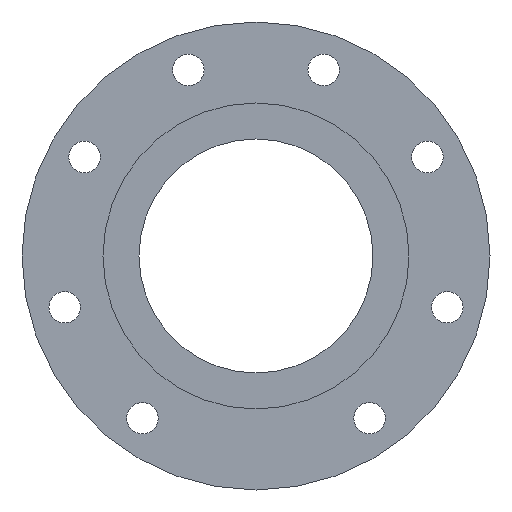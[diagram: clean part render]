
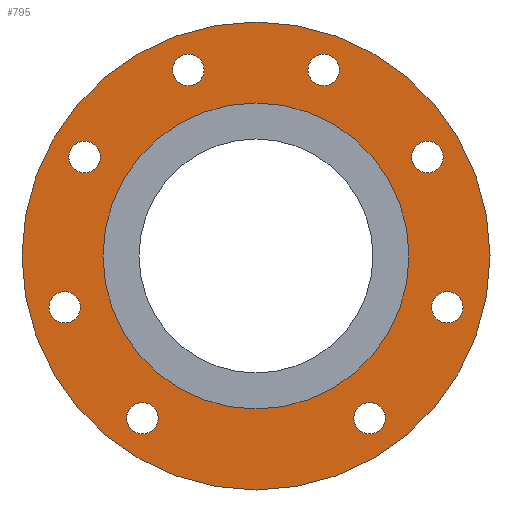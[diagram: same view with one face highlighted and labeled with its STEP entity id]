
A CAD part, left-side view. The second image highlights one B-rep face of the part: STEP entity #795.
In plain terms, the highlighted planar face has unit normal (-1, 0, 0).
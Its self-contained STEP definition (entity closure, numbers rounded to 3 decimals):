
#377=CARTESIAN_POINT('',(-22.0,0.0,-130.0));
#378=VERTEX_POINT('',#377);
#379=CARTESIAN_POINT('',(-22.0,0.0,0.0));
#380=DIRECTION('',(1.0,0.0,0.0));
#381=DIRECTION('',(0.0,0.0,-1.0));
#382=AXIS2_PLACEMENT_3D('',#379,#380,#381);
#383=CIRCLE('',#382,130.0);
#384=EDGE_CURVE('',#378,#378,#383,.T.);
#418=CARTESIAN_POINT('',(-22.0,63.093,-81.357));
#419=VERTEX_POINT('',#418);
#420=CARTESIAN_POINT('',(-22.0,63.093,-90.107));
#421=DIRECTION('',(1.0,0.0,0.0));
#422=DIRECTION('',(0.0,0.0,-1.0));
#423=AXIS2_PLACEMENT_3D('',#420,#421,#422);
#424=CIRCLE('',#423,8.75);
#425=EDGE_CURVE('',#419,#419,#424,.T.);
#459=CARTESIAN_POINT('',(-22.0,106.252,-19.72));
#460=VERTEX_POINT('',#459);
#461=CARTESIAN_POINT('',(-22.0,106.252,-28.47));
#462=DIRECTION('',(1.0,0.0,0.0));
#463=DIRECTION('',(0.0,0.0,-1.0));
#464=AXIS2_PLACEMENT_3D('',#461,#462,#463);
#465=CIRCLE('',#464,8.75);
#466=EDGE_CURVE('',#460,#460,#465,.T.);
#500=CARTESIAN_POINT('',(-22.0,-106.252,-19.72));
#501=VERTEX_POINT('',#500);
#502=CARTESIAN_POINT('',(-22.0,-106.252,-28.47));
#503=DIRECTION('',(1.0,0.0,0.0));
#504=DIRECTION('',(0.0,0.0,-1.0));
#505=AXIS2_PLACEMENT_3D('',#502,#503,#504);
#506=CIRCLE('',#505,8.75);
#507=EDGE_CURVE('',#501,#501,#506,.T.);
#541=CARTESIAN_POINT('',(-22.0,37.622,112.116));
#542=VERTEX_POINT('',#541);
#543=CARTESIAN_POINT('',(-22.0,37.622,103.366));
#544=DIRECTION('',(1.0,0.0,0.0));
#545=DIRECTION('',(0.0,0.0,-1.0));
#546=AXIS2_PLACEMENT_3D('',#543,#544,#545);
#547=CIRCLE('',#546,8.75);
#548=EDGE_CURVE('',#542,#542,#547,.T.);
#582=CARTESIAN_POINT('',(-22.0,-63.093,-81.357));
#583=VERTEX_POINT('',#582);
#584=CARTESIAN_POINT('',(-22.0,-63.093,-90.107));
#585=DIRECTION('',(1.0,0.0,0.0));
#586=DIRECTION('',(0.0,0.0,-1.0));
#587=AXIS2_PLACEMENT_3D('',#584,#585,#586);
#588=CIRCLE('',#587,8.75);
#589=EDGE_CURVE('',#583,#583,#588,.T.);
#623=CARTESIAN_POINT('',(-22.0,95.263,63.75));
#624=VERTEX_POINT('',#623);
#625=CARTESIAN_POINT('',(-22.0,95.263,55.));
#626=DIRECTION('',(1.0,0.0,0.0));
#627=DIRECTION('',(0.0,0.0,-1.0));
#628=AXIS2_PLACEMENT_3D('',#625,#626,#627);
#629=CIRCLE('',#628,8.75);
#630=EDGE_CURVE('',#624,#624,#629,.T.);
#664=CARTESIAN_POINT('',(-22.0,-37.622,112.116));
#665=VERTEX_POINT('',#664);
#666=CARTESIAN_POINT('',(-22.0,-37.622,103.366));
#667=DIRECTION('',(1.0,0.0,0.0));
#668=DIRECTION('',(0.0,0.0,-1.0));
#669=AXIS2_PLACEMENT_3D('',#666,#667,#668);
#670=CIRCLE('',#669,8.75);
#671=EDGE_CURVE('',#665,#665,#670,.T.);
#705=CARTESIAN_POINT('',(-22.0,-95.263,63.75));
#706=VERTEX_POINT('',#705);
#707=CARTESIAN_POINT('',(-22.0,-95.263,55.));
#708=DIRECTION('',(1.0,0.0,0.0));
#709=DIRECTION('',(0.0,0.0,-1.0));
#710=AXIS2_PLACEMENT_3D('',#707,#708,#709);
#711=CIRCLE('',#710,8.75);
#712=EDGE_CURVE('',#706,#706,#711,.T.);
#745=CARTESIAN_POINT('',(-22.,0.0,-85.0));
#746=VERTEX_POINT('',#745);
#747=CARTESIAN_POINT('',(-22.,0.0,0.0));
#748=DIRECTION('',(1.0,0.0,0.0));
#749=DIRECTION('',(0.0,0.0,-1.0));
#750=AXIS2_PLACEMENT_3D('',#747,#748,#749);
#751=CIRCLE('',#750,85.0);
#752=EDGE_CURVE('',#746,#746,#751,.T.);
#760=CARTESIAN_POINT('',(-22.0,0.0,-107.5));
#761=DIRECTION('',(-1.0,0.0,0.0));
#762=DIRECTION('',(0.0,0.0,1.0));
#763=AXIS2_PLACEMENT_3D('',#760,#761,#762);
#764=PLANE('',#763);
#765=ORIENTED_EDGE('',*,*,#384,.F.);
#766=EDGE_LOOP('',(#765));
#767=FACE_OUTER_BOUND('',#766,.T.);
#768=ORIENTED_EDGE('',*,*,#425,.T.);
#769=EDGE_LOOP('',(#768));
#770=FACE_BOUND('',#769,.T.);
#771=ORIENTED_EDGE('',*,*,#466,.T.);
#772=EDGE_LOOP('',(#771));
#773=FACE_BOUND('',#772,.T.);
#774=ORIENTED_EDGE('',*,*,#507,.T.);
#775=EDGE_LOOP('',(#774));
#776=FACE_BOUND('',#775,.T.);
#777=ORIENTED_EDGE('',*,*,#548,.T.);
#778=EDGE_LOOP('',(#777));
#779=FACE_BOUND('',#778,.T.);
#780=ORIENTED_EDGE('',*,*,#589,.T.);
#781=EDGE_LOOP('',(#780));
#782=FACE_BOUND('',#781,.T.);
#783=ORIENTED_EDGE('',*,*,#630,.T.);
#784=EDGE_LOOP('',(#783));
#785=FACE_BOUND('',#784,.T.);
#786=ORIENTED_EDGE('',*,*,#671,.T.);
#787=EDGE_LOOP('',(#786));
#788=FACE_BOUND('',#787,.T.);
#789=ORIENTED_EDGE('',*,*,#712,.T.);
#790=EDGE_LOOP('',(#789));
#791=FACE_BOUND('',#790,.T.);
#792=ORIENTED_EDGE('',*,*,#752,.T.);
#793=EDGE_LOOP('',(#792));
#794=FACE_BOUND('',#793,.T.);
#795=ADVANCED_FACE('',(#767,#770,#773,#776,#779,#782,#785,#788,#791,#794),#764,.T.);
